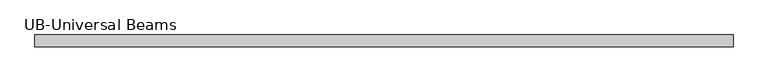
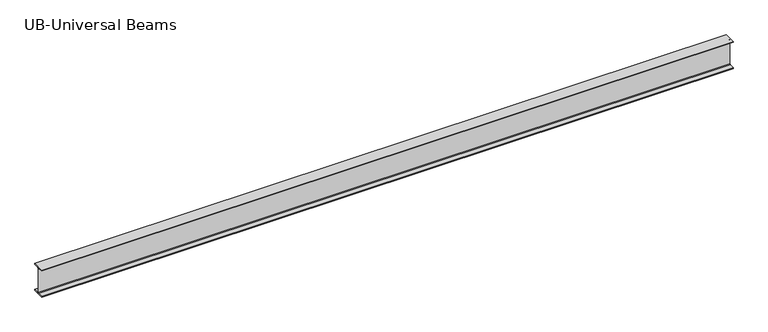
"""IFC4 building model written with IfcOpenShell, lengths in millimetres: beam geometry."""

from ifc_helpers import new_model, si_unit, point, frame, frame_2d, origin, place, context, project, spatial, polyline, circle_curve, trimmed, segment, composite_curve, outline, extrude, source, transform, mapped, element, save


def ub_universal_beams_14baedf7(model_context):
    return source(origin(), model_context, "Body", "SweptSolid", [
        extrude(outline(composite_curve([segment(polyline([(61.7, -141.5), (61.7, -152.2), (-61.7, -152.2), (-61.7, -141.5), (-12.45, -141.5)]), True, "CONTINUOUS"), segment(trimmed(circle_curve(frame_2d((-12.45, -132.6)), 8.9), [point((-12.45, -141.5))], [point((-3.55, -132.6))], True, "CARTESIAN"), True, "CONTINUOUS"), segment(polyline([(-3.55, -132.6), (-3.55, 132.6)]), True, "CONTINUOUS"), segment(trimmed(circle_curve(frame_2d((-12.45, 132.6)), 8.9), [point((-3.55, 132.6))], [point((-12.45, 141.5))], True, "CARTESIAN"), True, "CONTINUOUS"), segment(polyline([(-12.45, 141.5), (-61.7, 141.5), (-61.7, 152.2), (61.7, 152.2), (61.7, 141.5), (12.45, 141.5)]), True, "CONTINUOUS"), segment(trimmed(circle_curve(frame_2d((12.45, 132.6)), 8.9), [point((12.45, 141.5))], [point((3.55, 132.6))], True, "CARTESIAN"), True, "CONTINUOUS"), segment(polyline([(3.55, 132.6), (3.55, -132.6)]), True, "CONTINUOUS"), segment(trimmed(circle_curve(frame_2d((12.45, -132.6)), 8.9), [point((3.55, -132.6))], [point((12.45, -141.5))], True, "CARTESIAN"), True, "CONTINUOUS"), segment(polyline([(12.45, -141.5), (61.7, -141.5)]), True, "CONTINUOUS")], self_intersect=False)), frame((-3674.8, 0.0, 0.0), z_axis=(1.0, 0.0, 0.0), x_axis=(0.0, 1.0, 0.0)), (0.0, 0.0, 1.0), 7372.7),
    ])


if __name__ == "__main__":
    model = new_model("IFC4")
    model_context = context("Model", 3, world=origin())
    ifc_project = project(units=[si_unit("LENGTHUNIT", "METRE", prefix="MILLI")], contexts=[model_context])
    site = spatial("IfcSite", under=ifc_project)
    building = spatial("IfcBuilding", under=site)
    placement = place(None, origin())
    ub_universal_beams_shape = ub_universal_beams_14baedf7(model_context)
    element("IfcBeam", 1, ObjectType="UB-Universal Beams : UB 12\" x 5\" x 1 1/2\"", at=placement, inside=building, context=model_context, shape_type="MappedRepresentation", body=[
        mapped(ub_universal_beams_shape, transform((0.0, 0.0, 0.0), x_axis=(1.0, 0.0, 0.0), y_axis=(0.0, 1.0, 0.0), z_axis=(0.0, 0.0, 1.0))),
    ])
    save(model, "model.ifc")
